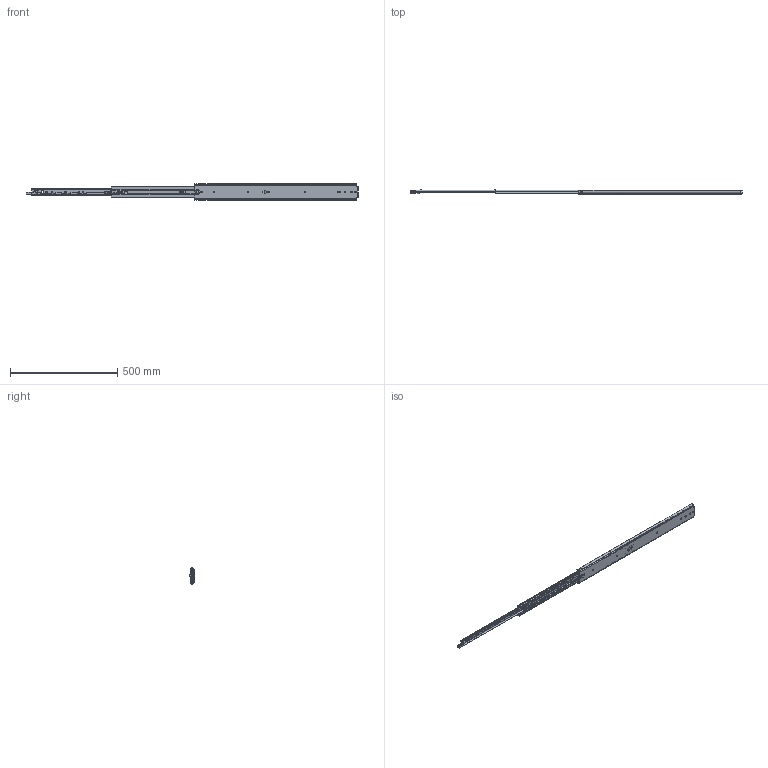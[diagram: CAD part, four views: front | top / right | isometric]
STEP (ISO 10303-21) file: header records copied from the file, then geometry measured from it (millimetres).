
FILE_DESCRIPTION((''),'2;1');
FILE_NAME('DG-76-3S-30ZUO_ASM','2023-05-10T',('jishu015'),(''),'PRO/ENGINEER BY PARAMETRIC TECHNOLOGY CORPORATION, 2010280','PRO/ENGINEER BY PARAMETRIC TECHNOLOGY CORPORATION, 2010280','');
FILE_SCHEMA(('CONFIG_CONTROL_DESIGN'));
Products named in the file (29): KP-76-04WAIKE-1816_____; 1076-WAIKEZIDANJIAO16_____; WAIK16______ASM; 1076XIAOZHUTIAO-22516_____; 16_____; 1076XIAOZHUTIAO-17516______ASM; KP-76-04ZHONGGUI1816_____; 76CHANGGUIZHONGGUIJIAO16_____; 3X6WODIN16_____; ZHONGGUIBAIKOU16_____; PJ-76-30____; PJ-76-03____; 76-XIAOZHUJIA-11____; GANGZHU-XIAO____; ZHUJIA-XIAO_____ASM; ZHONGGUI6______ASM; KP-76-04NEIGUI1816_____; PJ-76-31____; DAOGPIAN16_____; 1053-3SBANJ01____; JIAO-11____; 76XINSUOKOU____; PJ-338____; PJ-356____; PJ-357____; PJ-336____; M4X4____; NEIGUI16______ASM; DG-76-3S-30ZUO_ASM
Assembly tree (67 placements, depth 4):
  DG-76-3S-30ZUO_ASM
    WAIK16______ASM
      KP-76-04WAIKE-1816_____
      1076-WAIKEZIDANJIAO16_____  x2
    1076XIAOZHUTIAO-17516______ASM  x2
      1076XIAOZHUTIAO-22516_____
      16_____
    ZHONGGUI6______ASM
      KP-76-04ZHONGGUI1816_____
      76CHANGGUIZHONGGUIJIAO16_____
      3X6WODIN16_____
      ZHONGGUIBAIKOU16_____
      PJ-76-30____
      PJ-76-03____
      ZHUJIA-XIAO_____ASM
        76-XIAOZHUJIA-11____
        GANGZHU-XIAO____  x26
    NEIGUI16______ASM
      KP-76-04NEIGUI1816_____
      PJ-76-31____
      DAOGPIAN16_____
      1053-3SBANJ01____
      JIAO-11____
      76XINSUOKOU____
      PJ-338____
      PJ-356____
      PJ-357____
      PJ-336____
      M4X4____
Bounding box: 1549.92 x 20.7 x 75.3 mm (x, y, z)
Volume: 500618.4 mm3; surface area: 482121.1 mm2
Topology: 76 solids, 76 shells, 2011 faces, 6032 edges, 3832 vertices
Faces by surface type: plane 1035, cylinder 738, sphere 111, bspline 60, cone 28, extrusion 23, torus 16
Entity records: 66403 total; most frequent: CARTESIAN_POINT 18031, ORIENTED_EDGE 10504, DIRECTION 9639, EDGE_CURVE 5252, VERTEX_POINT 3424, AXIS2_PLACEMENT_3D 3310, VECTOR 3019, LINE 2996
